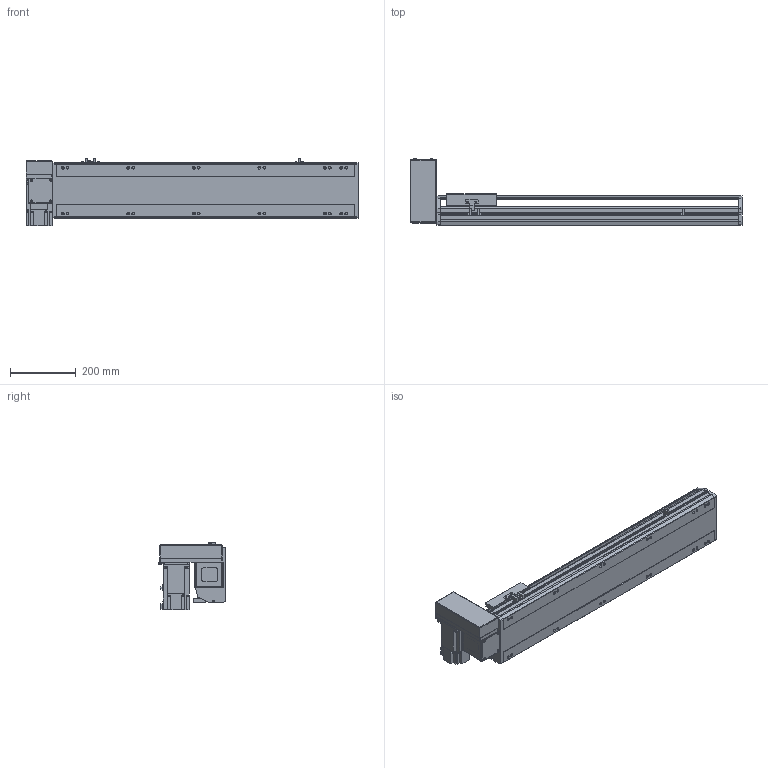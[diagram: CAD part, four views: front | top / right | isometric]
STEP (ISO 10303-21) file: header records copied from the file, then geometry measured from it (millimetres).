
FILE_DESCRIPTION( ( 'STEP AP214' ), '1' );
FILE_NAME( 'x:/temp/worker_5/temp/exporttempdir_3988_113_tLGyk/format_0/PBS170-P40-S650-RU-T75-C1-N(0).stp', '2022-06-08T05:56:14', ( 'License CC BY-ND 4.0' ), ( 'CADENAS' ), ' ', 'PARTsolutions', ' ' );
FILE_SCHEMA( ( 'AUTOMOTIVE_DESIGN { 1 0 10303 214 1 1 1 1 }' ) );
Length unit declared in the file: millimetre
Products named in the file (7): PBS170-P40-S650-RU-T75-C1-N(0); _PBS170-S650()_body; _PBS170T-RU_motors; _T75-p1; _PBS170_sliser; _PBS170_plant; _PBS170_sensor
Assembly tree (8 placements, depth 2):
  PBS170-P40-S650-RU-T75-C1-N(0)
    _PBS170-S650()_body
    _PBS170T-RU_motors
    _T75-p1
    _PBS170_sliser
    _PBS170_plant
    _PBS170_sensor  x3
Bounding box: 1013 x 206 x 205.3 mm (x, y, z)
Volume: 8493827.7 mm3; surface area: 1140360.9 mm2
Topology: 8 solids, 8 shells, 1050 faces, 2795 edges, 1822 vertices
Faces by surface type: plane 675, cylinder 323, cone 42, sphere 8, torus 2
Full cylindrical faces by diameter (mm): 3.242 x4, 4 x2, 4.4 x4, 4.5 x6, 4.917 x4, 6 x9, 6.647 x20, 7 x2, 7.5 x4, 8 x8, 8.5 x12, 10 x4, 10.5 x12, 11 x2, 30 x2, 40 x1, 70 x1
Entity records: 38456 total; most frequent: CARTESIAN_POINT 5885, DIRECTION 5160, ORIENTED_EDGE 4908, EDGE_CURVE 2454, AXIS2_PLACEMENT_3D 1777, VERTEX_POINT 1682, LINE 1606, VECTOR 1606
